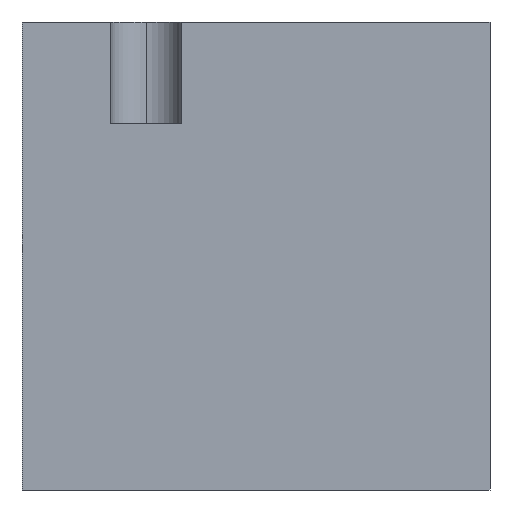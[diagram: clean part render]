
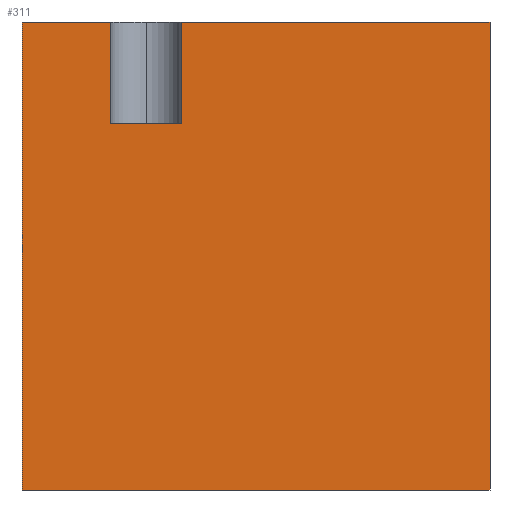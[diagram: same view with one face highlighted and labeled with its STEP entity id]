
A CAD part, left-side view. The second image highlights one B-rep face of the part: STEP entity #311.
In plain terms, the highlighted planar face has unit normal (-1, 0, 0).
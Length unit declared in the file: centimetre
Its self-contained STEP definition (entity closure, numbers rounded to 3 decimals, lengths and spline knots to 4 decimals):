
#11 = CARTESIAN_POINT ( 'NONE',  ( 0., 810.6221, 782.2596 ) ) ;
#14 = DIRECTION ( 'NONE',  ( 0., 0., -1. ) ) ;
#37 = VERTEX_POINT ( 'NONE', #1083 ) ;
#45 = VERTEX_POINT ( 'NONE', #250 ) ;
#60 = EDGE_CURVE ( 'NONE', #566, #453, #817, .T. ) ;
#81 = EDGE_CURVE ( 'NONE', #943, #691, #1134, .T. ) ;
#96 = CARTESIAN_POINT ( 'NONE',  ( 0., 810.6221, 782.2596 ) ) ;
#116 = CARTESIAN_POINT ( 'NONE',  ( 0., 1000., 1000. ) ) ;
#126 = ORIENTED_EDGE ( 'NONE', *, *, #623, .F. ) ;
#158 = EDGE_CURVE ( 'NONE', #691, #453, #725, .T. ) ;
#161 = ORIENTED_EDGE ( 'NONE', *, *, #341, .T. ) ;
#163 = PLANE ( 'NONE',  #194 ) ;
#194 = AXIS2_PLACEMENT_3D ( 'NONE', #484, #1334, #907 ) ;
#195 = VECTOR ( 'NONE', #735, 100. ) ;
#219 = DIRECTION ( 'NONE',  ( 0., 0., 1. ) ) ;
#225 = ORIENTED_EDGE ( 'NONE', *, *, #909, .T. ) ;
#250 = CARTESIAN_POINT ( 'NONE',  ( 0., 658.9892, 782.2596 ) ) ;
#268 = CARTESIAN_POINT ( 'NONE',  ( 0., 1000., 1000. ) ) ;
#272 = ORIENTED_EDGE ( 'NONE', *, *, #840, .F. ) ;
#286 = ORIENTED_EDGE ( 'NONE', *, *, #60, .T. ) ;
#311 = ADVANCED_FACE ( 'NONE', ( #714 ), #163, .F. ) ;
#320 = DIRECTION ( 'NONE',  ( 0., 0., 1. ) ) ;
#327 = LINE ( 'NONE', #116, #888 ) ;
#337 = LINE ( 'NONE', #653, #761 ) ;
#340 = VERTEX_POINT ( 'NONE', #11 ) ;
#341 = EDGE_CURVE ( 'NONE', #1354, #566, #327, .T. ) ;
#364 = CARTESIAN_POINT ( 'NONE',  ( 0., 0., 1000. ) ) ;
#397 = DIRECTION ( 'NONE',  ( 0., 0., -1. ) ) ;
#448 = CARTESIAN_POINT ( 'NONE',  ( 0., 1000., 0. ) ) ;
#453 = VERTEX_POINT ( 'NONE', #752 ) ;
#476 = ORIENTED_EDGE ( 'NONE', *, *, #158, .F. ) ;
#484 = CARTESIAN_POINT ( 'NONE',  ( 0., 1000., 1000. ) ) ;
#497 = VECTOR ( 'NONE', #397, 100. ) ;
#526 = CARTESIAN_POINT ( 'NONE',  ( 0., 0., 1000. ) ) ;
#544 = DIRECTION ( 'NONE',  ( 0., -1., 0. ) ) ;
#566 = VERTEX_POINT ( 'NONE', #448 ) ;
#580 = ORIENTED_EDGE ( 'NONE', *, *, #81, .F. ) ;
#623 = EDGE_CURVE ( 'NONE', #1354, #37, #1100, .T. ) ;
#653 = CARTESIAN_POINT ( 'NONE',  ( 0., 1000., 782.2596 ) ) ;
#657 = CARTESIAN_POINT ( 'NONE',  ( 0., 1000., 1000. ) ) ;
#691 = VERTEX_POINT ( 'NONE', #364 ) ;
#704 = VECTOR ( 'NONE', #1006, 100. ) ;
#714 = FACE_OUTER_BOUND ( 'NONE', #1035, .T. ) ;
#725 = LINE ( 'NONE', #526, #497 ) ;
#735 = DIRECTION ( 'NONE',  ( 0., -1., 0. ) ) ;
#752 = CARTESIAN_POINT ( 'NONE',  ( 0., 0., 0. ) ) ;
#756 = VECTOR ( 'NONE', #320, 100. ) ;
#761 = VECTOR ( 'NONE', #544, 100. ) ;
#784 = CARTESIAN_POINT ( 'NONE',  ( 0., 1000., 1000. ) ) ;
#817 = LINE ( 'NONE', #830, #1214 ) ;
#830 = CARTESIAN_POINT ( 'NONE',  ( 0., 1000., 0. ) ) ;
#840 = EDGE_CURVE ( 'NONE', #340, #45, #337, .T. ) ;
#864 = LINE ( 'NONE', #96, #1099 ) ;
#888 = VECTOR ( 'NONE', #14, 100. ) ;
#907 = DIRECTION ( 'NONE',  ( 0., 0., -1. ) ) ;
#909 = EDGE_CURVE ( 'NONE', #340, #37, #864, .T. ) ;
#943 = VERTEX_POINT ( 'NONE', #1264 ) ;
#1006 = DIRECTION ( 'NONE',  ( 0., -1., 0. ) ) ;
#1035 = EDGE_LOOP ( 'NONE', ( #272, #225, #126, #161, #286, #476, #580, #1139 ) ) ;
#1066 = CARTESIAN_POINT ( 'NONE',  ( 0., 658.9892, 782.2596 ) ) ;
#1078 = LINE ( 'NONE', #1066, #756 ) ;
#1083 = CARTESIAN_POINT ( 'NONE',  ( 0., 810.6221, 1000. ) ) ;
#1099 = VECTOR ( 'NONE', #219, 100. ) ;
#1100 = LINE ( 'NONE', #784, #704 ) ;
#1134 = LINE ( 'NONE', #268, #195 ) ;
#1139 = ORIENTED_EDGE ( 'NONE', *, *, #1353, .F. ) ;
#1213 = DIRECTION ( 'NONE',  ( 0., -1., 0. ) ) ;
#1214 = VECTOR ( 'NONE', #1213, 100. ) ;
#1264 = CARTESIAN_POINT ( 'NONE',  ( 0., 658.9892, 1000. ) ) ;
#1334 = DIRECTION ( 'NONE',  ( 1., 0., 0. ) ) ;
#1353 = EDGE_CURVE ( 'NONE', #45, #943, #1078, .T. ) ;
#1354 = VERTEX_POINT ( 'NONE', #657 ) ;
